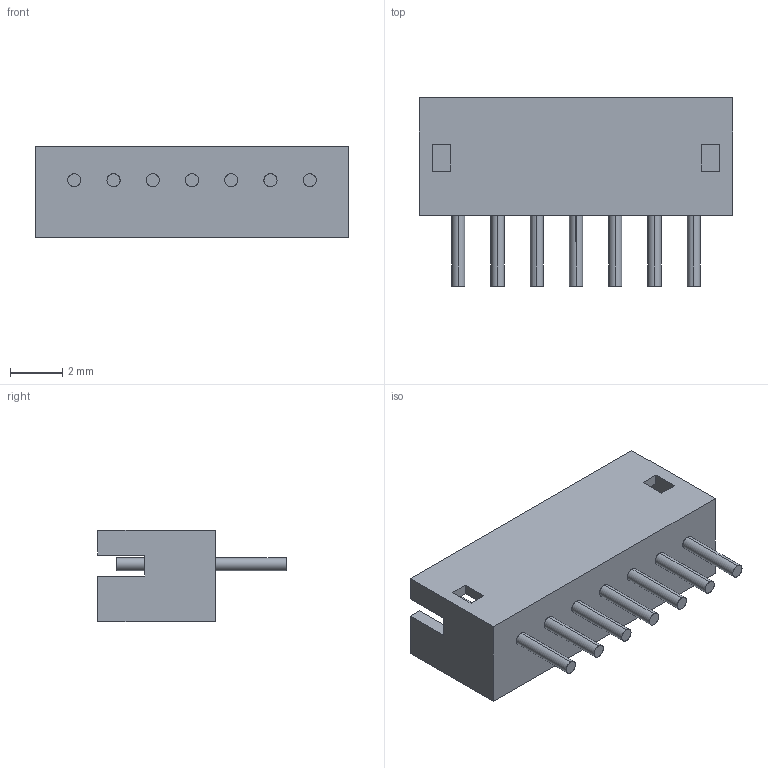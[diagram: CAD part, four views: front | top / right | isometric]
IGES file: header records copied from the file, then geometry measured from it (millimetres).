
Start section: SolidWorks IGES file using analytic representation for surfaces
Global section: file name: C:\Documents and Settings\y-masutani\デスクトップ\B7B-ZR.IGS; native system: SolidWorks 2005 by SolidWorks Corporation; preprocessor: SolidWorks 2005 by SolidWorks Corporation; author: y-masutani; date: 100614.174008; units: millimetre
Bounding box: 12 x 7.2 x 3.5 mm (x, y, z)
Surface area: 367.7 mm2 (no closed solid volume)
Topology: 0 solids, 0 shells, 68 faces, 716 edges, 716 vertices
Faces by surface type: bspline 40, revolution 28
